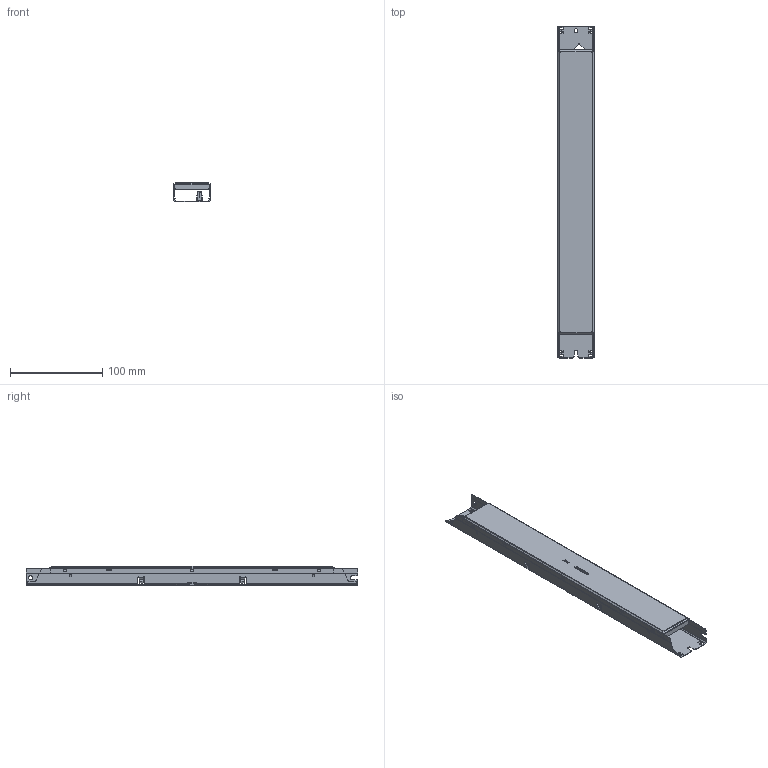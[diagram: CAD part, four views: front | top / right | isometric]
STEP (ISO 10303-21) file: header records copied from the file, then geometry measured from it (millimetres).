
FILE_DESCRIPTION(('Creo Elements/Direct Modeling STEP Export'),'2;1');
FILE_NAME('3D_M12.stp','2019-07-09T 6:46:21',(''),(''),'PTC Creo Elements/Direct Modeling STEP processor for AP214 (Solid Model)','PTC Creo Elements/Direct Modeling 19.0E 27-Jun-2016 (C) Parametric Technology GmbH','');
FILE_SCHEMA(('AUTOMOTIVE_DESIGN { 1 0 10303 214 1 1 1 1 }'));
Products named in the file (2): 3D_M12
Assembly tree (1 placements, depth 2):
  3D_M12
    3D_M12
Bounding box: 40.01 x 359 x 21.11 mm (x, y, z)
Volume: 19405.6 mm3; surface area: 79789.6 mm2
Topology: 1 solids, 1 shells, 1944 faces, 5610 edges, 3660 vertices
Faces by surface type: plane 1444, cylinder 398, bspline 78, cone 16, sphere 8
Entity records: 68465 total; most frequent: CARTESIAN_POINT 17456, ORIENTED_EDGE 11190, DIRECTION 9238, EDGE_CURVE 5595, VECTOR 4356, LINE 4356, VERTEX_POINT 3660, AXIS2_PLACEMENT_3D 2441
